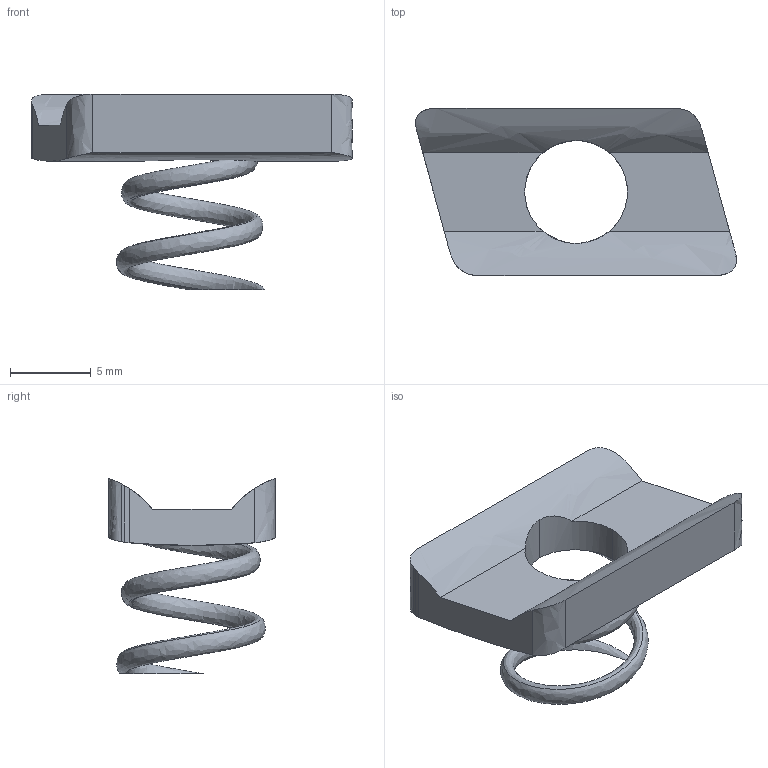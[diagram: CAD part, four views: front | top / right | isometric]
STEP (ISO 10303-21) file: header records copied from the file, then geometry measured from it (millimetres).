
FILE_DESCRIPTION(('TurboCAD Mac Pro'),'Build 980');
FILE_NAME('P7006-1420.stp',' ',(''),(''),'ACIS Interop','IMSI','TurboCAD Mac Pro BY IMSI, INCORPORATED');
FILE_SCHEMA(('automotive_design'));
Length unit declared in the file: inch
Products named in the file (1): 1
Bounding box: 19.82 x 10.31 x 12.07 mm (x, y, z)
Volume: 459.8 mm3; surface area: 707.4 mm2
Topology: 1 solids, 1 shells, 28 faces, 81 edges, 53 vertices
Faces by surface type: bspline 15, plane 13
Entity records: 3129 total; most frequent: CARTESIAN_POINT 2280, ORIENTED_EDGE 162, EDGE_CURVE 81, DIRECTION 61, VERTEX_POINT 53, B_SPLINE_CURVE_WITH_KNOTS 48, LINE 33, VECTOR 33
